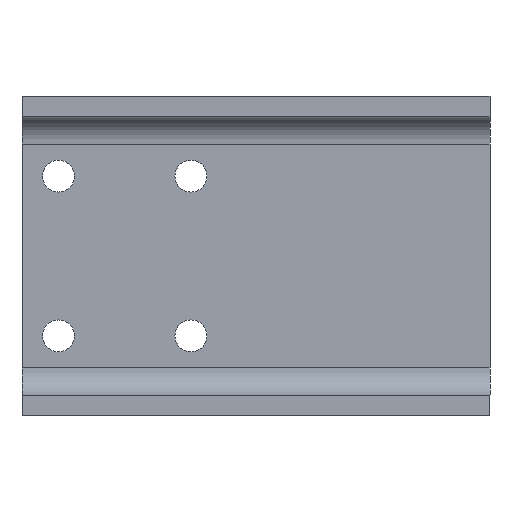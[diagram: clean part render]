
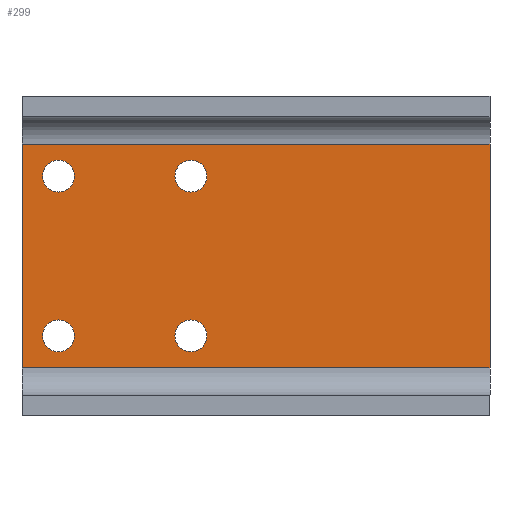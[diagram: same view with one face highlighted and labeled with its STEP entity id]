
A CAD part, left-side view. The second image highlights one B-rep face of the part: STEP entity #299.
In plain terms, the highlighted planar face has unit normal (-1, 0, 0).
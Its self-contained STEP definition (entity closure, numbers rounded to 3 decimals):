
#4 = FACE_BOUND ( 'NONE', #998, .T. ) ;
#15 = LINE ( 'NONE', #795, #332 ) ;
#29 = VERTEX_POINT ( 'NONE', #1429 ) ;
#70 = LINE ( 'NONE', #1994, #1686 ) ;
#71 = EDGE_CURVE ( 'NONE', #203, #1689, #1258, .T. ) ;
#123 = VECTOR ( 'NONE', #1124, 1000. ) ;
#167 = ORIENTED_EDGE ( 'NONE', *, *, #2319, .F. ) ;
#171 = CARTESIAN_POINT ( 'NONE',  ( -55., 1929., 2192. ) ) ;
#194 = ORIENTED_EDGE ( 'NONE', *, *, #1299, .F. ) ;
#203 = VERTEX_POINT ( 'NONE', #1752 ) ;
#212 = DIRECTION ( 'NONE',  ( 0., 1., 0. ) ) ;
#229 = VERTEX_POINT ( 'NONE', #1278 ) ;
#249 = CARTESIAN_POINT ( 'NONE',  ( -55., 1929., 2255. ) ) ;
#260 = DIRECTION ( 'NONE',  ( -1., 0., 0. ) ) ;
#265 = DIRECTION ( 'NONE',  ( 0., 0., 1. ) ) ;
#271 = EDGE_LOOP ( 'NONE', ( #2183, #972 ) ) ;
#273 = CARTESIAN_POINT ( 'NONE',  ( -55., 1871., 2178. ) ) ;
#299 = ADVANCED_FACE ( 'NONE', ( #1927, #1953, #974, #4, #784 ), #947, .F. ) ;
#308 = VERTEX_POINT ( 'NONE', #1365 ) ;
#315 = CARTESIAN_POINT ( 'NONE',  ( -55., 1871., 2185. ) ) ;
#332 = VECTOR ( 'NONE', #1573, 1000. ) ;
#338 = LINE ( 'NONE', #2246, #123 ) ;
#371 = ORIENTED_EDGE ( 'NONE', *, *, #1704, .F. ) ;
#410 = ORIENTED_EDGE ( 'NONE', *, *, #1562, .F. ) ;
#474 = AXIS2_PLACEMENT_3D ( 'NONE', #1442, #1643, #2428 ) ;
#475 = CARTESIAN_POINT ( 'NONE',  ( -55., 1929., 2185. ) ) ;
#551 = AXIS2_PLACEMENT_3D ( 'NONE', #475, #1225, #265 ) ;
#567 = ORIENTED_EDGE ( 'NONE', *, *, #2244, .F. ) ;
#580 = EDGE_LOOP ( 'NONE', ( #371, #567 ) ) ;
#585 = DIRECTION ( 'NONE',  ( 0., 0., -1. ) ) ;
#604 = DIRECTION ( 'NONE',  ( -1., 0., 0. ) ) ;
#634 = CARTESIAN_POINT ( 'NONE',  ( -55., 1871., 2262. ) ) ;
#657 = VERTEX_POINT ( 'NONE', #273 ) ;
#665 = CARTESIAN_POINT ( 'NONE',  ( -55., 1871., 2255. ) ) ;
#688 = DIRECTION ( 'NONE',  ( -1., 0., 0. ) ) ;
#722 = CIRCLE ( 'NONE', #2486, 7. ) ;
#725 = CIRCLE ( 'NONE', #551, 7. ) ;
#784 = FACE_OUTER_BOUND ( 'NONE', #1207, .T. ) ;
#795 = CARTESIAN_POINT ( 'NONE',  ( -55., 1945., 2171. ) ) ;
#799 = CARTESIAN_POINT ( 'NONE',  ( -55., 1945., 2269. ) ) ;
#836 = CIRCLE ( 'NONE', #2473, 7. ) ;
#866 = CARTESIAN_POINT ( 'NONE',  ( -55., 1740., 2171. ) ) ;
#900 = CIRCLE ( 'NONE', #2326, 7. ) ;
#903 = DIRECTION ( 'NONE',  ( 0., 0., 1. ) ) ;
#947 = PLANE ( 'NONE',  #1760 ) ;
#972 = ORIENTED_EDGE ( 'NONE', *, *, #2469, .F. ) ;
#974 = FACE_BOUND ( 'NONE', #580, .T. ) ;
#998 = EDGE_LOOP ( 'NONE', ( #167, #2315 ) ) ;
#1045 = DIRECTION ( 'NONE',  ( -1., 0., 0. ) ) ;
#1077 = CARTESIAN_POINT ( 'NONE',  ( -55., 1740., 2269. ) ) ;
#1124 = DIRECTION ( 'NONE',  ( 0., 0., -1. ) ) ;
#1145 = CARTESIAN_POINT ( 'NONE',  ( -55., 1740., 2269. ) ) ;
#1166 = ORIENTED_EDGE ( 'NONE', *, *, #1485, .F. ) ;
#1204 = CARTESIAN_POINT ( 'NONE',  ( -55., 1871., 2185. ) ) ;
#1207 = EDGE_LOOP ( 'NONE', ( #1567, #194, #1166, #1703 ) ) ;
#1225 = DIRECTION ( 'NONE',  ( -1., 0., 0. ) ) ;
#1234 = DIRECTION ( 'NONE',  ( 0., 0., 1. ) ) ;
#1258 = CIRCLE ( 'NONE', #474, 7. ) ;
#1278 = CARTESIAN_POINT ( 'NONE',  ( -55., 1871., 2192. ) ) ;
#1299 = EDGE_CURVE ( 'NONE', #2388, #2257, #70, .T. ) ;
#1322 = DIRECTION ( 'NONE',  ( -1., 0., 0. ) ) ;
#1359 = CIRCLE ( 'NONE', #1702, 7. ) ;
#1365 = CARTESIAN_POINT ( 'NONE',  ( -55., 1929., 2178. ) ) ;
#1429 = CARTESIAN_POINT ( 'NONE',  ( -55., 1871., 2248. ) ) ;
#1442 = CARTESIAN_POINT ( 'NONE',  ( -55., 1929., 2255. ) ) ;
#1459 = DIRECTION ( 'NONE',  ( 0., 1., 0. ) ) ;
#1485 = EDGE_CURVE ( 'NONE', #1896, #2388, #338, .T. ) ;
#1487 = EDGE_LOOP ( 'NONE', ( #2496, #410 ) ) ;
#1528 = LINE ( 'NONE', #1145, #1651 ) ;
#1548 = EDGE_CURVE ( 'NONE', #1896, #1765, #1528, .T. ) ;
#1560 = CARTESIAN_POINT ( 'NONE',  ( -55., 1740., 2171. ) ) ;
#1562 = EDGE_CURVE ( 'NONE', #308, #1787, #1976, .T. ) ;
#1567 = ORIENTED_EDGE ( 'NONE', *, *, #1831, .T. ) ;
#1573 = DIRECTION ( 'NONE',  ( 0., 0., -1. ) ) ;
#1586 = CARTESIAN_POINT ( 'NONE',  ( -55., 1871., 2255. ) ) ;
#1596 = CARTESIAN_POINT ( 'NONE',  ( -55., 1945., 2171. ) ) ;
#1643 = DIRECTION ( 'NONE',  ( -1., 0., 0. ) ) ;
#1651 = VECTOR ( 'NONE', #212, 1000. ) ;
#1655 = EDGE_CURVE ( 'NONE', #2356, #29, #2506, .T. ) ;
#1686 = VECTOR ( 'NONE', #1459, 1000. ) ;
#1689 = VERTEX_POINT ( 'NONE', #2267 ) ;
#1702 = AXIS2_PLACEMENT_3D ( 'NONE', #1204, #260, #1781 ) ;
#1703 = ORIENTED_EDGE ( 'NONE', *, *, #1548, .T. ) ;
#1704 = EDGE_CURVE ( 'NONE', #229, #657, #836, .T. ) ;
#1752 = CARTESIAN_POINT ( 'NONE',  ( -55., 1929., 2248. ) ) ;
#1760 = AXIS2_PLACEMENT_3D ( 'NONE', #1560, #2350, #585 ) ;
#1765 = VERTEX_POINT ( 'NONE', #799 ) ;
#1781 = DIRECTION ( 'NONE',  ( 0., 0., 1. ) ) ;
#1787 = VERTEX_POINT ( 'NONE', #171 ) ;
#1831 = EDGE_CURVE ( 'NONE', #1765, #2257, #15, .T. ) ;
#1862 = AXIS2_PLACEMENT_3D ( 'NONE', #1586, #2377, #1865 ) ;
#1865 = DIRECTION ( 'NONE',  ( 0., 0., 1. ) ) ;
#1896 = VERTEX_POINT ( 'NONE', #1077 ) ;
#1925 = DIRECTION ( 'NONE',  ( 0., 0., 1. ) ) ;
#1927 = FACE_BOUND ( 'NONE', #1487, .T. ) ;
#1950 = CARTESIAN_POINT ( 'NONE',  ( -55., 1929., 2185. ) ) ;
#1953 = FACE_BOUND ( 'NONE', #271, .T. ) ;
#1976 = CIRCLE ( 'NONE', #2139, 7. ) ;
#1994 = CARTESIAN_POINT ( 'NONE',  ( -55., 1740., 2171. ) ) ;
#2139 = AXIS2_PLACEMENT_3D ( 'NONE', #1950, #1322, #1925 ) ;
#2183 = ORIENTED_EDGE ( 'NONE', *, *, #1655, .F. ) ;
#2244 = EDGE_CURVE ( 'NONE', #657, #229, #1359, .T. ) ;
#2246 = CARTESIAN_POINT ( 'NONE',  ( -55., 1740., 2171. ) ) ;
#2257 = VERTEX_POINT ( 'NONE', #1596 ) ;
#2267 = CARTESIAN_POINT ( 'NONE',  ( -55., 1929., 2262. ) ) ;
#2282 = DIRECTION ( 'NONE',  ( 0., 0., 1. ) ) ;
#2315 = ORIENTED_EDGE ( 'NONE', *, *, #71, .F. ) ;
#2319 = EDGE_CURVE ( 'NONE', #1689, #203, #722, .T. ) ;
#2326 = AXIS2_PLACEMENT_3D ( 'NONE', #665, #1045, #903 ) ;
#2350 = DIRECTION ( 'NONE',  ( 1., 0., 0. ) ) ;
#2356 = VERTEX_POINT ( 'NONE', #634 ) ;
#2377 = DIRECTION ( 'NONE',  ( -1., 0., 0. ) ) ;
#2388 = VERTEX_POINT ( 'NONE', #866 ) ;
#2428 = DIRECTION ( 'NONE',  ( 0., 0., 1. ) ) ;
#2469 = EDGE_CURVE ( 'NONE', #29, #2356, #900, .T. ) ;
#2473 = AXIS2_PLACEMENT_3D ( 'NONE', #315, #688, #2282 ) ;
#2483 = EDGE_CURVE ( 'NONE', #1787, #308, #725, .T. ) ;
#2486 = AXIS2_PLACEMENT_3D ( 'NONE', #249, #604, #1234 ) ;
#2496 = ORIENTED_EDGE ( 'NONE', *, *, #2483, .F. ) ;
#2506 = CIRCLE ( 'NONE', #1862, 7. ) ;
